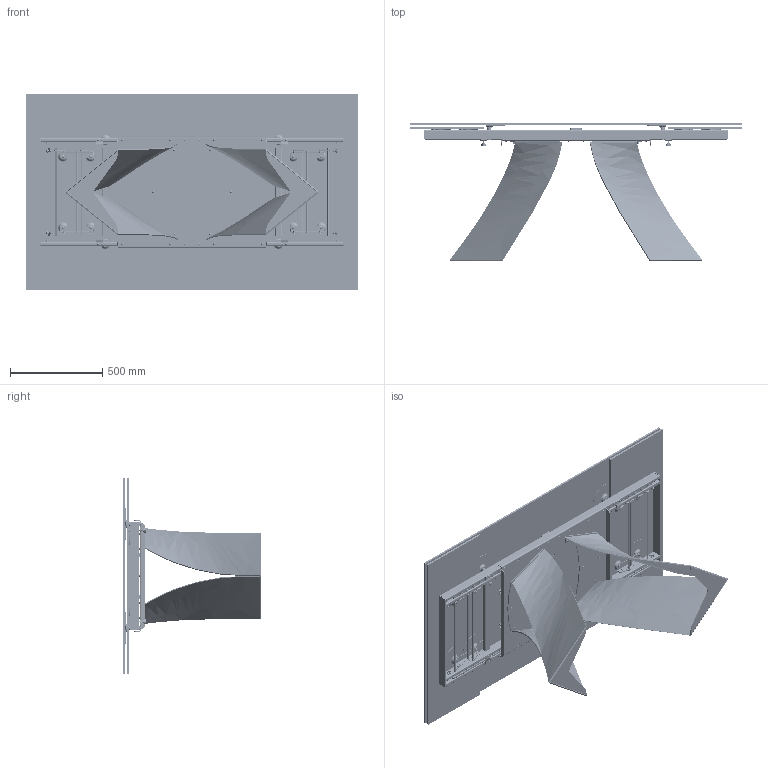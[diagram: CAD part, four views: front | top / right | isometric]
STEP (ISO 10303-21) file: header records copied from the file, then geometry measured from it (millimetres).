
FILE_DESCRIPTION (( 'STEP AP203' ), '1' );
FILE_NAME ('TW31G_Twist 180-260_Close_Glass.STEP', '2024-08-01T13:45:24', ( '' ), ( '' ), 'SwSTEP 2.0', 'SolidWorks 2022', '' );
FILE_SCHEMA (( 'CONFIG_CONTROL_DESIGN' ));
Length unit declared in the file: millimetre
Products named in the file (76): 1000337; TWS000000BAA-00-TWIST BASE GREZZA X ALLUNGABILE; 523020801; 1000515; 521061107_DEFAULT; 1000242; SAB100301_02-00-CILINDRO_TWIST ALL PIASTRA ANCORAGGIO V03 ANTRACITE GOFFRATO IMB.SLDASM; FERMO NEBULA H15,5; 523020802; SpecchiaturaGAMBA TWIST PER ALLUNGABILE_PIASTRA VERTICALE DESTRA; TW31G_Twist 180-260_Close_Glass; SAB100301_01-00-CILINDRO_TWIST ALL PIASTRA ANCORAGGIO V03 ANTRACITE GOFFRATO IMB.SLDASM; 1000244; 523020805; 1000166; 523020817; 1000289; 1000096; 3001149; SAB100301-00-CILINDRO_TWIST ALL PIASTRA ANCORAGGIO V03 ANTRACITE GOFFRATO IMB; 2001011; COLLO TELAIO UNIVERSALE SAB100301 CON FERRAMENTA; C34_01-00-CRISTALLO X ALLUNGABILE 180X106_180x100 TTAV04; 1000280; 1000443; 1000181; 1000338; 5230208 TEL INT_CHIUSO_chiuso; M8xXXmm_M8x20mm; 1000305; 1000013; 1000250; 1001535; 1001576; 523020808; 523020806; 1000165; 1000973; 1000845; C34-00-PIANO ALLUNGABILE 180X106_180x106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
Assembly tree (241 placements, depth 5):
  TW31G_Twist 180-260_Close_Glass
    COLLO TELAIO UNIVERSALE SAB100301 CON FERRAMENTA
      SAB100301-00-CILINDRO_TWIST ALL PIASTRA ANCORAGGIO V03 ANTRACITE GOFFRATO IMB
        SAB100301_01-00-CILINDRO_TWIST ALL PIASTRA ANCORAGGIO V03 ANTRACITE GOFFRATO IMB.SLDASM
        SAB100301_02-00-CILINDRO_TWIST ALL PIASTRA ANCORAGGIO V03 ANTRACITE GOFFRATO IMB.SLDASM  x2
      M6xXXmm_M6x20mm  x12
    TWS000000BAA-00-TWIST BASE GREZZA X ALLUNGABILE  x2
      GAMBA TWIST PER ALLUNGABILE_PIASTRA COLLEGAMENTO
      GAMBA TWIST PER ALLUNGABILE_PIASTRA VERTICALE SINISTRA
      GAMBA TWIST PER ALLUNGABILE_PIEDE A TERRA
      SpecchiaturaGAMBA TWIST PER ALLUNGABILE_PIASTRA VERTICALE DESTRA
    TTAV04-00-TELAIO ALLUNGABILE X TAVOLI 180 260cm_CHIUSO
      5230208 TEL EST_DEFAULT
        523020803  x2
        523020813  x2
        521061110  x2
        523020811
        FERMO NEBULA H15,5  x4
          1000242
          1000515
          1000325
        1000144  x4
        521060816  x4
        1001535  x4
        1000250  x24
        1000165
        1000305  x4
        1000280  x4
        1000013  x4
        1000865  x4
        3001149  x4
        1000273  x20
        523020814  x4
        1000375  x8
        1000166
        1001576  x4
      5230208 TEL INT_CHIUSO_chiuso  x2
        5230208 SAL_LIBERO
          523020808
          523020806
          523020801  x2
          523020804_DEFAULT
          523020805
          521061107_DEFAULT  x4
          2001011  x2
        523020809
        523020802
        1000487
        RUOTA NEB H23,4
          1000338
          1000443
          1000084
        1000289
        1000096
        1000170
        1000304
        1000244
        1000375
        1000001A
        1000973
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Bounding box: 1800 x 745.5 x 1060 mm (x, y, z)
Volume: 37764860 mm3; surface area: 12686591.1 mm2
Topology: 50 solids, 333 shells, 8756 faces, 21032 edges, 13264 vertices
Faces by surface type: cylinder 3574, plane 3518, cone 888, bspline 560, torus 216
Entity records: 81579 total; most frequent: CARTESIAN_POINT 21064, DIRECTION 10579, ORIENTED_EDGE 9612, EDGE_CURVE 4806, AXIS2_PLACEMENT_3D 3977, VERTEX_POINT 3090, VECTOR 2625, LINE 2625
